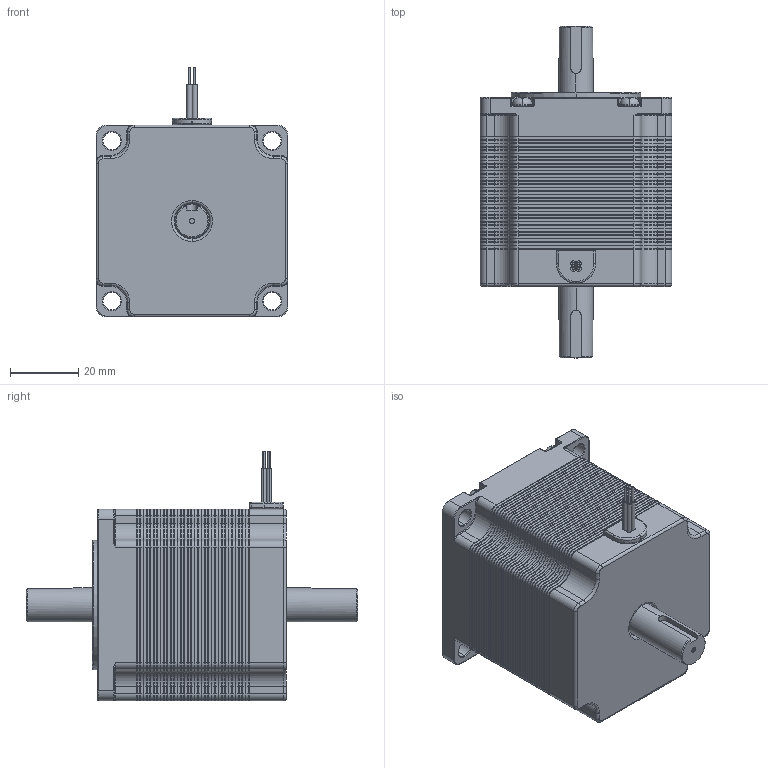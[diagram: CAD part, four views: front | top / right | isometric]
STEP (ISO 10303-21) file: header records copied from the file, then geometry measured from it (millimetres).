
FILE_DESCRIPTION (( 'STEP AP214' ), '1' );
FILE_NAME ('Nema 23 Stepper Motor length 56mm_10mm_key_DS.STEP', '2020-11-11T14:13:22', ( 'Moofasta' ), ( '' ), 'SwSTEP 2.0', 'SolidWorks 2020', '' );
FILE_SCHEMA (( 'AUTOMOTIVE_DESIGN' ));
Length unit declared in the file: millimetre
Products named in the file (1): Nema 23 Stepper Motor length 56mm_10mm_key_DS
Bounding box: 56.3 x 97.5 x 73.3 mm (x, y, z)
Volume: 163956.1 mm3; surface area: 214158.8 mm2
Topology: 49 solids, 49 shells, 2925 faces, 6660 edges, 3819 vertices
Faces by surface type: plane 1430, cone 819, cylinder 562, torus 94, sphere 12, bspline 8
Entity records: 109024 total; most frequent: DIRECTION 14481, CARTESIAN_POINT 13897, ORIENTED_EDGE 13280, EDGE_CURVE 6640, AXIS2_PLACEMENT_3D 5003, VECTOR 4475, LINE 4475, VERTEX_POINT 3819
